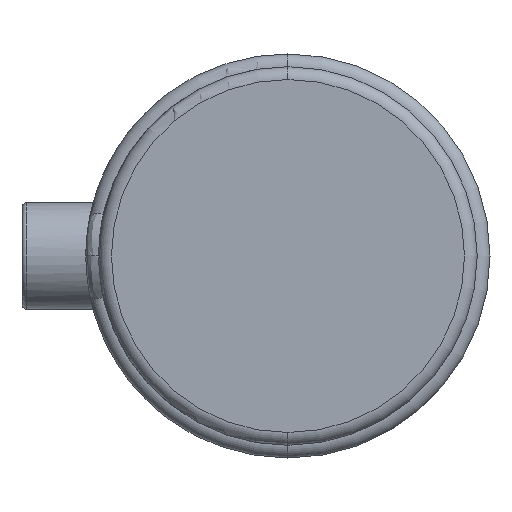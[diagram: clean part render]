
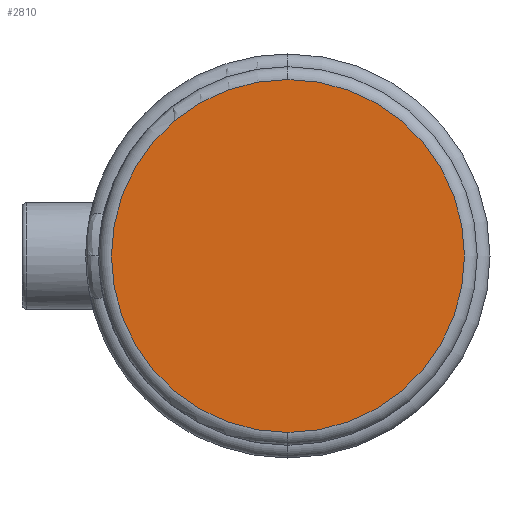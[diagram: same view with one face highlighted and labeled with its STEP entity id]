
A CAD part, left-side view. The second image highlights one B-rep face of the part: STEP entity #2810.
In plain terms, the highlighted planar face has unit normal (-1, 0, 0).
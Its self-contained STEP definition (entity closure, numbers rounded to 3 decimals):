
#147 = CARTESIAN_POINT ( 'NONE',  ( 0., 0., -41.45 ) ) ;
#449 = DIRECTION ( 'NONE',  ( 0., 0., 1. ) ) ;
#665 = AXIS2_PLACEMENT_3D ( 'NONE', #5987, #3300, #449 ) ;
#788 = AXIS2_PLACEMENT_3D ( 'NONE', #4440, #1668, #4891 ) ;
#809 = CIRCLE ( 'NONE', #665, 41.45 ) ;
#1668 = DIRECTION ( 'NONE',  ( -1., 0., 0. ) ) ;
#1816 = ORIENTED_EDGE ( 'NONE', *, *, #2747, .T. ) ;
#2362 = DIRECTION ( 'NONE',  ( -1., 0., 0. ) ) ;
#2379 = EDGE_CURVE ( 'NONE', #5153, #4167, #5654, .T. ) ;
#2747 = EDGE_CURVE ( 'NONE', #4167, #5153, #809, .T. ) ;
#2810 = ADVANCED_FACE ( 'NONE', ( #4534 ), #5105, .T. ) ;
#3300 = DIRECTION ( 'NONE',  ( -1., 0., 0. ) ) ;
#3835 = AXIS2_PLACEMENT_3D ( 'NONE', #5971, #2362, #5553 ) ;
#4167 = VERTEX_POINT ( 'NONE', #147 ) ;
#4345 = CARTESIAN_POINT ( 'NONE',  ( 0., 0., 41.45 ) ) ;
#4440 = CARTESIAN_POINT ( 'NONE',  ( 0., 0., 0. ) ) ;
#4534 = FACE_OUTER_BOUND ( 'NONE', #4801, .T. ) ;
#4801 = EDGE_LOOP ( 'NONE', ( #5338, #1816 ) ) ;
#4891 = DIRECTION ( 'NONE',  ( 0., 0., 1. ) ) ;
#5105 = PLANE ( 'NONE',  #3835 ) ;
#5153 = VERTEX_POINT ( 'NONE', #4345 ) ;
#5338 = ORIENTED_EDGE ( 'NONE', *, *, #2379, .T. ) ;
#5553 = DIRECTION ( 'NONE',  ( 0., 0., 1. ) ) ;
#5654 = CIRCLE ( 'NONE', #788, 41.45 ) ;
#5971 = CARTESIAN_POINT ( 'NONE',  ( 0., 0., 0. ) ) ;
#5987 = CARTESIAN_POINT ( 'NONE',  ( 0., 0., 0. ) ) ;
